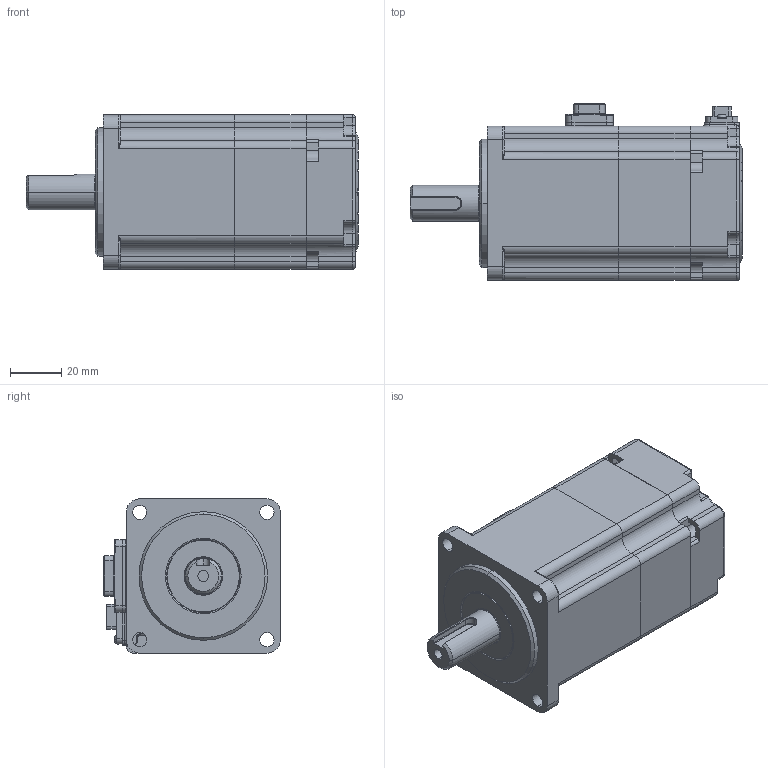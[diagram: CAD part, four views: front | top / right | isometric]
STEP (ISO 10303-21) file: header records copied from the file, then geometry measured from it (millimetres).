
FILE_DESCRIPTION(('FreeCAD Model'),'2;1');
FILE_NAME('Open CASCADE Shape Model','2025-03-17T13:58:15',('Author'),( ''),'Open CASCADE STEP processor 7.6','FreeCAD','Unknown');
FILE_SCHEMA(('AUTOMOTIVE_DESIGN { 1 0 10303 214 1 1 1 1 }'));
Length unit declared in the file: millimetre
Products named in the file (19): PSM6H-60CS30BZ3-20P2; PSM6H-60CS30BZ3-20P003; PSM6H-60CS30BZ3-20P004; PSM6H-60CS30BZ3-20P005; PSM6H-60CS30BZ3-20P006; PSM6H-60CS30BZ3-20P007; PSM6H-60CS30BZ3-20P008; PSM6H-60CS30BZ3-20P009; PSM6H-60CS30BZ3-20P010; PSM6H-60CS30BZ3-20P011; PSM6H-60CS30BZ3-20P012; PSM6H-60CS30BZ3-20P013; PSM6H-60CS30BZ3-20P014; PSM6H-60CS30BZ3-20P015; PSM6H-60CS30BZ3-20P016; PSM6H-60CS30BZ3-20P017; PSM6H-60CS30BZ3-20P018; PSM6H-60CS30BZ3-20P019; PSM6H-60CS30BZ3-20P020
Assembly tree (18 placements, depth 2):
  PSM6H-60CS30BZ3-20P2
    PSM6H-60CS30BZ3-20P003
    PSM6H-60CS30BZ3-20P004
    PSM6H-60CS30BZ3-20P005
    PSM6H-60CS30BZ3-20P006
    PSM6H-60CS30BZ3-20P007
    PSM6H-60CS30BZ3-20P008
    PSM6H-60CS30BZ3-20P009
    PSM6H-60CS30BZ3-20P010
    PSM6H-60CS30BZ3-20P011
    PSM6H-60CS30BZ3-20P012
    PSM6H-60CS30BZ3-20P013
    PSM6H-60CS30BZ3-20P014
    PSM6H-60CS30BZ3-20P015
    PSM6H-60CS30BZ3-20P016
    PSM6H-60CS30BZ3-20P017
    PSM6H-60CS30BZ3-20P018
    PSM6H-60CS30BZ3-20P019
    PSM6H-60CS30BZ3-20P020
Bounding box: 129.15 x 68.8 x 60 mm (x, y, z)
Surface area: 37660.9 mm2 (no closed solid volume)
Topology: 0 solids, 18 shells, 646 faces, 2141 edges, 1484 vertices
Faces by surface type: plane 289, cylinder 246, torus 55, cone 23, bspline 21, sphere 8, revolution 4
Entity records: 24839 total; most frequent: CARTESIAN_POINT 5709, DIRECTION 4049, ORIENTED_EDGE 3485, EDGE_CURVE 2125, VERTEX_POINT 1484, AXIS2_PLACEMENT_3D 1358, LINE 1329, VECTOR 1329
